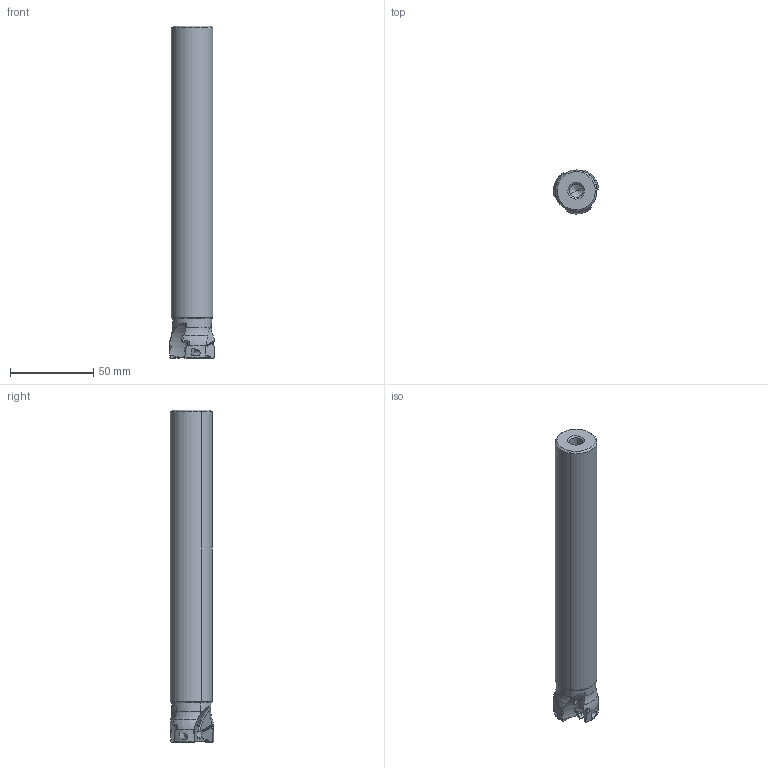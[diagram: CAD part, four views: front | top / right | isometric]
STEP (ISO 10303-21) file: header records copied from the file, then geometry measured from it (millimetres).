
FILE_DESCRIPTION(('CATIA V5 STEP','CAx-IF Rec.Pracs.--- Model Styling and Organization---1.2---2011-12-15'),'2;1');
FILE_NAME('N:\data\isr\design\special1\users\NATALY_B\Tal\NPA\3107308\HM390 ETP D28-3-C25-10-B.stp','2016-07-26T07:26:50+00:00',('none'),('none'),'CATIA Version 5 Release 21 SP 5 (IN-10)','CATIA V5 STEP AP214','none');
FILE_SCHEMA(('AUTOMOTIVE_DESIGN { 1 0 10303 214 1 1 1 1 }'));
Length unit declared in the file: millimetre
Products named in the file (1): HM390 ETP D28-3-C25-10-B
Bounding box: 27.09 x 26.42 x 199.4 mm (x, y, z)
Volume: 94004.9 mm3; surface area: 17405.8 mm2
Topology: 1 solids, 1 shells, 141 faces, 403 edges, 259 vertices
Faces by surface type: plane 53, cylinder 30, torus 25, cone 14, sphere 12, revolution 7
Entity records: 4989 total; most frequent: CARTESIAN_POINT 1834, ORIENTED_EDGE 784, DIRECTION 427, EDGE_CURVE 392, VERTEX_POINT 259, AXIS2_PLACEMENT_3D 198, B_SPLINE_CURVE_WITH_KNOTS 185, EDGE_LOOP 147
